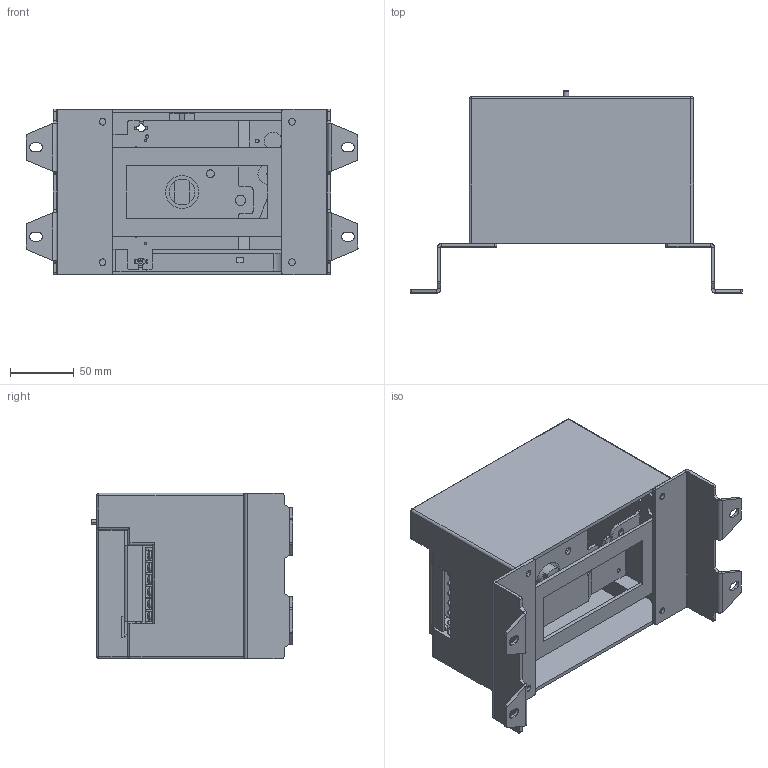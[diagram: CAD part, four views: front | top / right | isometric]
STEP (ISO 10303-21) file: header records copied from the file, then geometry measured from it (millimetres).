
FILE_DESCRIPTION (( 'STEP AP214' ), '1' );
FILE_NAME ('TGM1N-1250.step', '2026-07-01T11:53:09', ( '' ), ( '' ), 'SwSTEP 2.0', 'SolidWorks 2024', '' );
FILE_SCHEMA (( 'AUTOMOTIVE_DESIGN' ));
Length unit declared in the file: millimetre
Products named in the file (8): TGM1N-1250; ___________1.STEP; TGM1N-800 .STEP; STM6-800 ______.step; TGM1N-1250.step; CD2-400-630____L.step; STM6-800 ______-0.step; TGM1N-800
Assembly tree (7 placements, depth 4):
  TGM1N-1250
    TGM1N-1250.step
      CD2-400-630____L.step
      STM6-800 ______.step
      STM6-800 ______-0.step
    TGM1N-800
      TGM1N-800 .STEP
        ___________1.STEP
Bounding box: 260.3 x 158.3 x 130 mm (x, y, z)
Volume: 502518.7 mm3; surface area: 354897.2 mm2
Topology: 11 solids, 11 shells, 1415 faces, 3805 edges, 2498 vertices
Faces by surface type: plane 799, cylinder 308, bspline 282, torus 14, cone 12
Entity records: 60506 total; most frequent: CARTESIAN_POINT 26124, ORIENTED_EDGE 7608, DIRECTION 6097, EDGE_CURVE 3804, VERTEX_POINT 2498, LINE 2479, VECTOR 2479, AXIS2_PLACEMENT_3D 1809
